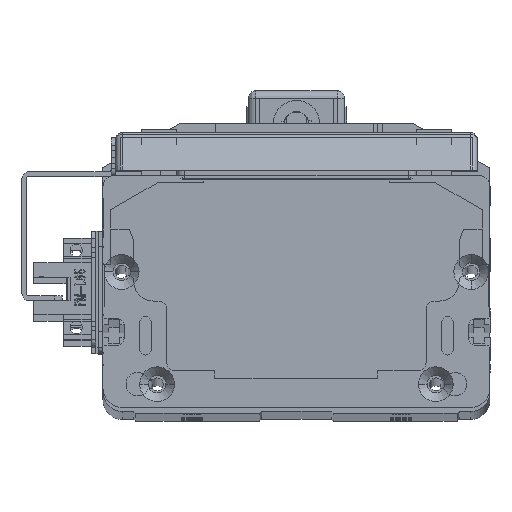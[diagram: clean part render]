
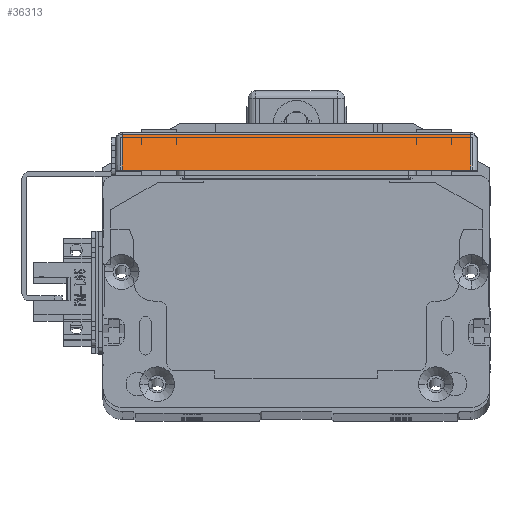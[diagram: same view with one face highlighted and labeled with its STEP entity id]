
A CAD part, top view. The second image highlights one B-rep face of the part: STEP entity #36313.
In plain terms, the highlighted planar face has unit normal (0, 0.707, 0.707) as drawn and (-0.707, 0, -0.707) by its records, which use the part's own axes.
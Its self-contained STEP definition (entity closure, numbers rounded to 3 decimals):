
#49 = CARTESIAN_POINT ( 'NONE',  ( -68., 93.4, 5.6 ) ) ;
#3982 = VECTOR ( 'NONE', #25949, 1000. ) ;
#8622 = CARTESIAN_POINT ( 'NONE',  ( -68., 91.7, 5.6 ) ) ;
#9092 = LINE ( 'NONE', #8622, #63363 ) ;
#9181 = ORIENTED_EDGE ( 'NONE', *, *, #60948, .T. ) ;
#10254 = VERTEX_POINT ( 'NONE', #48211 ) ;
#11720 = DIRECTION ( 'NONE',  ( -0.707, 0., -0.707 ) ) ;
#15748 = FACE_OUTER_BOUND ( 'NONE', #36661, .T. ) ;
#16716 = LINE ( 'NONE', #20517, #3982 ) ;
#17267 = VECTOR ( 'NONE', #65251, 1000. ) ;
#17768 = EDGE_CURVE ( 'NONE', #39006, #42557, #16716, .T. ) ;
#20517 = CARTESIAN_POINT ( 'NONE',  ( -68., 1.7, 5.6 ) ) ;
#25010 = DIRECTION ( 'NONE',  ( 0.707, 0., -0.707 ) ) ;
#25949 = DIRECTION ( 'NONE',  ( -0.707, 0., 0.707 ) ) ;
#28767 = EDGE_CURVE ( 'NONE', #10254, #39006, #29979, .T. ) ;
#29566 = ORIENTED_EDGE ( 'NONE', *, *, #52917, .T. ) ;
#29979 = LINE ( 'NONE', #59546, #17267 ) ;
#34512 = VECTOR ( 'NONE', #65585, 1000. ) ;
#36313 = ADVANCED_FACE ( 'NONE', ( #15748 ), #60764, .T. ) ;
#36330 = CARTESIAN_POINT ( 'NONE',  ( -57.298, 1.7, -5.102 ) ) ;
#36661 = EDGE_LOOP ( 'NONE', ( #45848, #9181, #29566, #51621 ) ) ;
#39006 = VERTEX_POINT ( 'NONE', #36330 ) ;
#41329 = VERTEX_POINT ( 'NONE', #65427 ) ;
#42557 = VERTEX_POINT ( 'NONE', #70338 ) ;
#45848 = ORIENTED_EDGE ( 'NONE', *, *, #17768, .T. ) ;
#48211 = CARTESIAN_POINT ( 'NONE',  ( -57.298, 91.7, -5.102 ) ) ;
#51621 = ORIENTED_EDGE ( 'NONE', *, *, #28767, .T. ) ;
#51917 = AXIS2_PLACEMENT_3D ( 'NONE', #49, #11720, #60051 ) ;
#52917 = EDGE_CURVE ( 'NONE', #41329, #10254, #9092, .T. ) ;
#54862 = LINE ( 'NONE', #60352, #34512 ) ;
#59546 = CARTESIAN_POINT ( 'NONE',  ( -57.298, 93.4, -5.102 ) ) ;
#60051 = DIRECTION ( 'NONE',  ( -0.707, 0., 0.707 ) ) ;
#60352 = CARTESIAN_POINT ( 'NONE',  ( -66.5, 93.4, 4.1 ) ) ;
#60764 = PLANE ( 'NONE',  #51917 ) ;
#60948 = EDGE_CURVE ( 'NONE', #42557, #41329, #54862, .T. ) ;
#63363 = VECTOR ( 'NONE', #25010, 1000. ) ;
#65251 = DIRECTION ( 'NONE',  ( 0., -1., 0. ) ) ;
#65427 = CARTESIAN_POINT ( 'NONE',  ( -66.5, 91.7, 4.1 ) ) ;
#65585 = DIRECTION ( 'NONE',  ( 0., 1., 0. ) ) ;
#70338 = CARTESIAN_POINT ( 'NONE',  ( -66.5, 1.7, 4.1 ) ) ;
